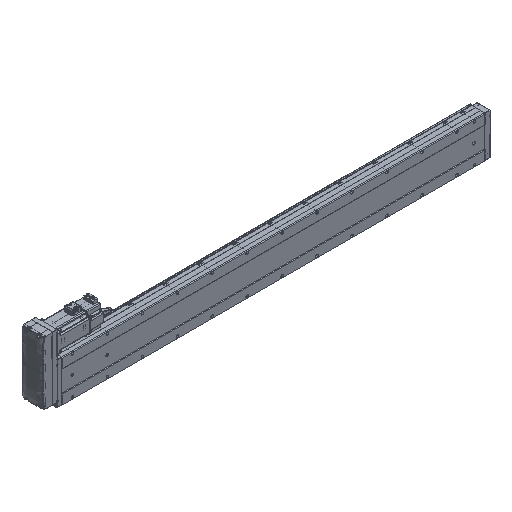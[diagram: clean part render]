
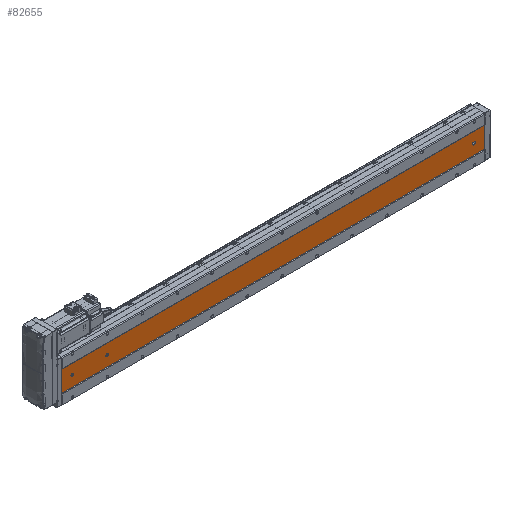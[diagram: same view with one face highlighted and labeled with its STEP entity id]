
A CAD part, isometric view. The second image highlights one B-rep face of the part: STEP entity #82655.
In plain terms, the highlighted planar face has unit normal (0, -1, 0).
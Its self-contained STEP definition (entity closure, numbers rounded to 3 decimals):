
#20 = VERTEX_POINT ( 'NONE', #84289 ) ;
#2800 = PLANE ( 'NONE',  #62170 ) ;
#4718 = EDGE_CURVE ( 'NONE', #41435, #20, #103323, .T. ) ;
#6094 = VERTEX_POINT ( 'NONE', #27939 ) ;
#6348 = VERTEX_POINT ( 'NONE', #110575 ) ;
#10956 = AXIS2_PLACEMENT_3D ( 'NONE', #64285, #90226, #71880 ) ;
#14496 = DIRECTION ( 'NONE',  ( 0., 1., 0. ) ) ;
#15579 = LINE ( 'NONE', #86659, #53894 ) ;
#16009 = CARTESIAN_POINT ( 'NONE',  ( -39.892, -52.848, 1181. ) ) ;
#16202 = ORIENTED_EDGE ( 'NONE', *, *, #84670, .T. ) ;
#19703 = DIRECTION ( 'NONE',  ( 0., 1., 0. ) ) ;
#20774 = CARTESIAN_POINT ( 'NONE',  ( -43.392, -52.848, 32. ) ) ;
#22065 = DIRECTION ( 'NONE',  ( 0., 0., -1. ) ) ;
#23187 = CARTESIAN_POINT ( 'NONE',  ( -9.892, -52.848, 1211. ) ) ;
#23504 = AXIS2_PLACEMENT_3D ( 'NONE', #106563, #19703, #98097 ) ;
#24549 = FACE_BOUND ( 'NONE', #84566, .T. ) ;
#24594 = CARTESIAN_POINT ( 'NONE',  ( -39.892, -52.848, 1084.5 ) ) ;
#24778 = DIRECTION ( 'NONE',  ( 0., 1., 0. ) ) ;
#27412 = DIRECTION ( 'NONE',  ( 0., 0., -1. ) ) ;
#27426 = AXIS2_PLACEMENT_3D ( 'NONE', #62911, #106537, #80455 ) ;
#27939 = CARTESIAN_POINT ( 'NONE',  ( -39.892, -52.848, 1077.5 ) ) ;
#28352 = EDGE_CURVE ( 'NONE', #6348, #36118, #49986, .T. ) ;
#28815 = DIRECTION ( 'NONE',  ( 0., 0., 1. ) ) ;
#30045 = CARTESIAN_POINT ( 'NONE',  ( -9.892, -52.848, 0. ) ) ;
#31016 = EDGE_CURVE ( 'NONE', #106905, #31732, #73946, .T. ) ;
#31268 = DIRECTION ( 'NONE',  ( 0., 1., 0. ) ) ;
#31732 = VERTEX_POINT ( 'NONE', #76666 ) ;
#33836 = CIRCLE ( 'NONE', #68072, 3.5 ) ;
#34932 = ORIENTED_EDGE ( 'NONE', *, *, #4718, .T. ) ;
#36118 = VERTEX_POINT ( 'NONE', #37641 ) ;
#37641 = CARTESIAN_POINT ( 'NONE',  ( -9.892, -52.848, 1211. ) ) ;
#38721 = EDGE_CURVE ( 'NONE', #68086, #52682, #33836, .T. ) ;
#41435 = VERTEX_POINT ( 'NONE', #51503 ) ;
#41447 = EDGE_CURVE ( 'NONE', #110648, #70542, #15579, .T. ) ;
#45080 = FACE_BOUND ( 'NONE', #85097, .T. ) ;
#45751 = EDGE_CURVE ( 'NONE', #36118, #70542, #85287, .T. ) ;
#47604 = CARTESIAN_POINT ( 'NONE',  ( -36.392, -52.848, 1211. ) ) ;
#49986 = LINE ( 'NONE', #62623, #70433 ) ;
#50758 = VECTOR ( 'NONE', #74690, 1000. ) ;
#51503 = CARTESIAN_POINT ( 'NONE',  ( -39.892, -52.848, 1184.5 ) ) ;
#51898 = CIRCLE ( 'NONE', #90807, 3.5 ) ;
#52682 = VERTEX_POINT ( 'NONE', #57075 ) ;
#53894 = VECTOR ( 'NONE', #69800, 1000. ) ;
#56341 = CIRCLE ( 'NONE', #101539, 3.5 ) ;
#57075 = CARTESIAN_POINT ( 'NONE',  ( -43.392, -52.848, 30. ) ) ;
#57351 = EDGE_CURVE ( 'NONE', #64081, #106905, #108155, .T. ) ;
#58792 = FACE_BOUND ( 'NONE', #78124, .T. ) ;
#61496 = DIRECTION ( 'NONE',  ( 0., 0., 1. ) ) ;
#62170 = AXIS2_PLACEMENT_3D ( 'NONE', #65148, #100306, #28815 ) ;
#62623 = CARTESIAN_POINT ( 'NONE',  ( -69.892, -52.848, 1211. ) ) ;
#62911 = CARTESIAN_POINT ( 'NONE',  ( -39.892, -52.848, 1181. ) ) ;
#63131 = ORIENTED_EDGE ( 'NONE', *, *, #90678, .T. ) ;
#64077 = AXIS2_PLACEMENT_3D ( 'NONE', #100932, #31268, #102066 ) ;
#64081 = VERTEX_POINT ( 'NONE', #20774 ) ;
#64285 = CARTESIAN_POINT ( 'NONE',  ( -39.892, -52.848, 32. ) ) ;
#65148 = CARTESIAN_POINT ( 'NONE',  ( -69.892, -52.848, 1211. ) ) ;
#68072 = AXIS2_PLACEMENT_3D ( 'NONE', #78596, #95824, #98109 ) ;
#68086 = VERTEX_POINT ( 'NONE', #92001 ) ;
#68745 = LINE ( 'NONE', #98897, #93339 ) ;
#69800 = DIRECTION ( 'NONE',  ( 1., 0., 0. ) ) ;
#70433 = VECTOR ( 'NONE', #72485, 1000. ) ;
#70542 = VERTEX_POINT ( 'NONE', #30045 ) ;
#70803 = CARTESIAN_POINT ( 'NONE',  ( -36.392, -52.848, 32. ) ) ;
#71880 = DIRECTION ( 'NONE',  ( 0., 0., 1. ) ) ;
#72485 = DIRECTION ( 'NONE',  ( 1., 0., 0. ) ) ;
#73946 = LINE ( 'NONE', #47604, #50758 ) ;
#74690 = DIRECTION ( 'NONE',  ( 0., 0., -1. ) ) ;
#74904 = EDGE_CURVE ( 'NONE', #31732, #68086, #51898, .T. ) ;
#75382 = ORIENTED_EDGE ( 'NONE', *, *, #100071, .T. ) ;
#75621 = CARTESIAN_POINT ( 'NONE',  ( -39.892, -52.848, 30. ) ) ;
#75768 = VERTEX_POINT ( 'NONE', #24594 ) ;
#75941 = ORIENTED_EDGE ( 'NONE', *, *, #57351, .T. ) ;
#76666 = CARTESIAN_POINT ( 'NONE',  ( -36.392, -52.848, 30. ) ) ;
#78124 = EDGE_LOOP ( 'NONE', ( #98942, #16202 ) ) ;
#78596 = CARTESIAN_POINT ( 'NONE',  ( -39.892, -52.848, 30. ) ) ;
#80051 = EDGE_CURVE ( 'NONE', #20, #41435, #56341, .T. ) ;
#80455 = DIRECTION ( 'NONE',  ( 0., 0., 1. ) ) ;
#82655 = ADVANCED_FACE ( 'NONE', ( #45080, #58792, #24549, #94316 ), #2800, .F. ) ;
#83956 = VECTOR ( 'NONE', #22065, 1000. ) ;
#84289 = CARTESIAN_POINT ( 'NONE',  ( -39.892, -52.848, 1177.5 ) ) ;
#84566 = EDGE_LOOP ( 'NONE', ( #91094, #34932 ) ) ;
#84670 = EDGE_CURVE ( 'NONE', #75768, #6094, #95447, .T. ) ;
#84688 = CIRCLE ( 'NONE', #64077, 3.5 ) ;
#85097 = EDGE_LOOP ( 'NONE', ( #63131, #75941, #107545, #95804, #86579 ) ) ;
#85287 = LINE ( 'NONE', #23187, #83956 ) ;
#86579 = ORIENTED_EDGE ( 'NONE', *, *, #38721, .T. ) ;
#86659 = CARTESIAN_POINT ( 'NONE',  ( -69.892, -52.848, 0. ) ) ;
#87705 = VECTOR ( 'NONE', #94127, 1000. ) ;
#90226 = DIRECTION ( 'NONE',  ( 0., 1., 0. ) ) ;
#90678 = EDGE_CURVE ( 'NONE', #52682, #64081, #111037, .T. ) ;
#90807 = AXIS2_PLACEMENT_3D ( 'NONE', #75621, #14496, #110899 ) ;
#91094 = ORIENTED_EDGE ( 'NONE', *, *, #80051, .T. ) ;
#91406 = ORIENTED_EDGE ( 'NONE', *, *, #41447, .T. ) ;
#92001 = CARTESIAN_POINT ( 'NONE',  ( -39.892, -52.848, 26.5 ) ) ;
#93339 = VECTOR ( 'NONE', #27412, 1000. ) ;
#94127 = DIRECTION ( 'NONE',  ( 0., 0., 1. ) ) ;
#94316 = FACE_OUTER_BOUND ( 'NONE', #95744, .T. ) ;
#95447 = CIRCLE ( 'NONE', #23504, 3.5 ) ;
#95623 = CARTESIAN_POINT ( 'NONE',  ( -43.392, -52.848, 1211. ) ) ;
#95744 = EDGE_LOOP ( 'NONE', ( #91406, #109824, #106325, #75382 ) ) ;
#95804 = ORIENTED_EDGE ( 'NONE', *, *, #74904, .T. ) ;
#95824 = DIRECTION ( 'NONE',  ( 0., 1., 0. ) ) ;
#98097 = DIRECTION ( 'NONE',  ( 0., 0., 1. ) ) ;
#98109 = DIRECTION ( 'NONE',  ( 0., 0., 1. ) ) ;
#98897 = CARTESIAN_POINT ( 'NONE',  ( -69.892, -52.848, 1211. ) ) ;
#98942 = ORIENTED_EDGE ( 'NONE', *, *, #99728, .T. ) ;
#99728 = EDGE_CURVE ( 'NONE', #6094, #75768, #84688, .T. ) ;
#100071 = EDGE_CURVE ( 'NONE', #6348, #110648, #68745, .T. ) ;
#100306 = DIRECTION ( 'NONE',  ( 0., 1., 0. ) ) ;
#100932 = CARTESIAN_POINT ( 'NONE',  ( -39.892, -52.848, 1081. ) ) ;
#101539 = AXIS2_PLACEMENT_3D ( 'NONE', #16009, #24778, #61496 ) ;
#102066 = DIRECTION ( 'NONE',  ( 0., 0., 1. ) ) ;
#103323 = CIRCLE ( 'NONE', #27426, 3.5 ) ;
#106325 = ORIENTED_EDGE ( 'NONE', *, *, #28352, .F. ) ;
#106537 = DIRECTION ( 'NONE',  ( 0., 1., 0. ) ) ;
#106563 = CARTESIAN_POINT ( 'NONE',  ( -39.892, -52.848, 1081. ) ) ;
#106905 = VERTEX_POINT ( 'NONE', #70803 ) ;
#107545 = ORIENTED_EDGE ( 'NONE', *, *, #31016, .T. ) ;
#108155 = CIRCLE ( 'NONE', #10956, 3.5 ) ;
#109824 = ORIENTED_EDGE ( 'NONE', *, *, #45751, .F. ) ;
#110575 = CARTESIAN_POINT ( 'NONE',  ( -69.892, -52.848, 1211. ) ) ;
#110648 = VERTEX_POINT ( 'NONE', #113537 ) ;
#110899 = DIRECTION ( 'NONE',  ( 0., 0., 1. ) ) ;
#111037 = LINE ( 'NONE', #95623, #87705 ) ;
#113537 = CARTESIAN_POINT ( 'NONE',  ( -69.892, -52.848, 0. ) ) ;
